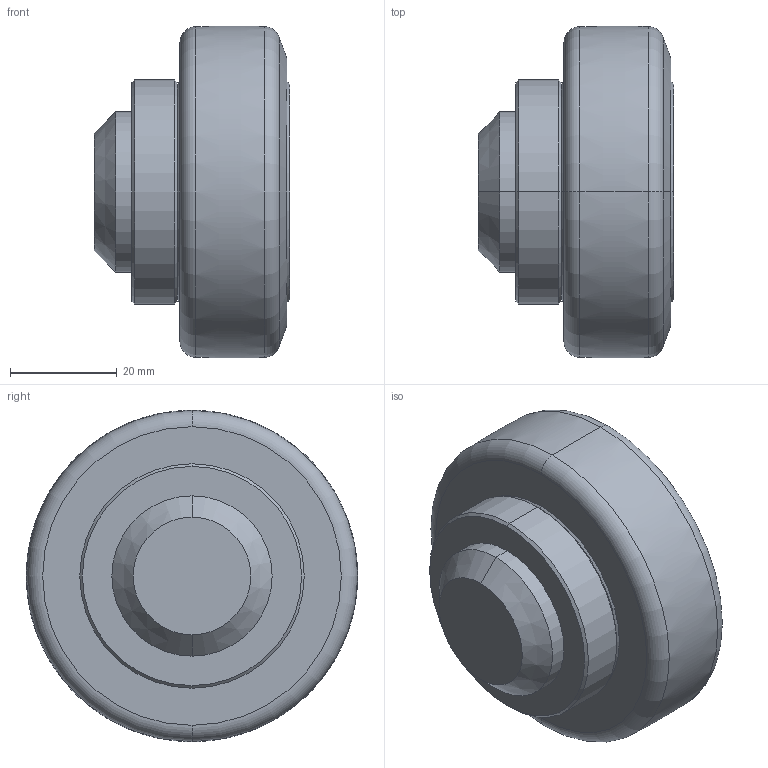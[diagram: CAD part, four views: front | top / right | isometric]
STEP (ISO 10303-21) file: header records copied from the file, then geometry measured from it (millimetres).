
FILE_DESCRIPTION (( 'STEP AP214' ), '1' );
FILE_NAME ('3D2.0363.STEP', '2013-12-17T04:54:27', ( 'usuario' ), ( 'Hewlett-Packard Company' ), 'SwSTEP 2.0', 'SolidWorks 2017', '' );
FILE_SCHEMA (( 'AUTOMOTIVE_DESIGN' ));
Length unit declared in the file: millimetre
Products named in the file (1): 3D2.0363
Bounding box: 36.5 x 61.99 x 62 mm (x, y, z)
Volume: 75907.6 mm3; surface area: 10920 mm2
Topology: 1 solids, 1 shells, 28 faces, 54 edges, 32 vertices
Faces by surface type: cone 12, torus 6, plane 6, cylinder 4
Entity records: 754 total; most frequent: DIRECTION 150, CARTESIAN_POINT 115, ORIENTED_EDGE 108, AXIS2_PLACEMENT_3D 67, EDGE_CURVE 54, CIRCLE 38, VERTEX_POINT 32, EDGE_LOOP 32
